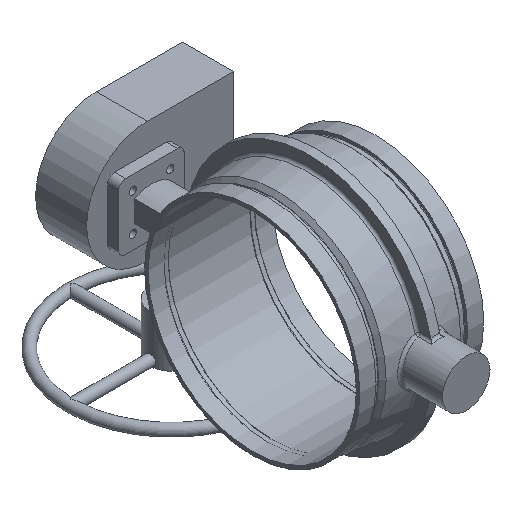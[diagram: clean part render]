
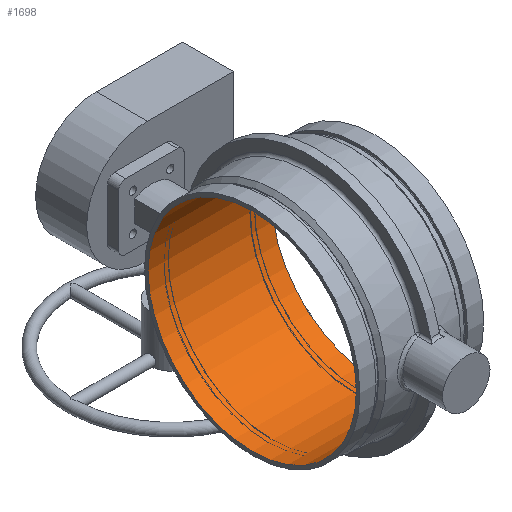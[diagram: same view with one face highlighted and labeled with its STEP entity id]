
A CAD part, isometric view. The second image highlights one B-rep face of the part: STEP entity #1698.
In plain terms, the highlighted cylindrical face has radius 245.618 mm (diameter 491.236 mm), a full revolution.
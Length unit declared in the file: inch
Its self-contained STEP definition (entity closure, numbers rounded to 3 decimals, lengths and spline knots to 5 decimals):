
#176=CIRCLE('',#1907,9.67);
#177=CIRCLE('',#1908,9.67);
#178=CIRCLE('',#1910,9.67);
#179=CIRCLE('',#1911,9.67);
#302=FACE_OUTER_BOUND('',#406,.T.);
#406=EDGE_LOOP('',(#1539,#1540,#1541,#1542,#1543,#1544));
#478=LINE('',#3834,#547);
#547=VECTOR('',#2367,9.67);
#791=VERTEX_POINT('',#3828);
#792=VERTEX_POINT('',#3829);
#793=VERTEX_POINT('',#3833);
#794=VERTEX_POINT('',#3835);
#1045=EDGE_CURVE('',#791,#792,#176,.T.);
#1046=EDGE_CURVE('',#792,#791,#177,.T.);
#1047=EDGE_CURVE('',#792,#793,#478,.T.);
#1048=EDGE_CURVE('',#794,#793,#178,.T.);
#1049=EDGE_CURVE('',#793,#794,#179,.T.);
#1539=ORIENTED_EDGE('',*,*,#1045,.T.);
#1540=ORIENTED_EDGE('',*,*,#1047,.T.);
#1541=ORIENTED_EDGE('',*,*,#1048,.F.);
#1542=ORIENTED_EDGE('',*,*,#1049,.F.);
#1543=ORIENTED_EDGE('',*,*,#1047,.F.);
#1544=ORIENTED_EDGE('',*,*,#1046,.T.);
#1607=CYLINDRICAL_SURFACE('',#1909,9.67);
#1698=ADVANCED_FACE('',(#302),#1607,.F.);
#1907=AXIS2_PLACEMENT_3D('',#3830,#2361,#2362);
#1908=AXIS2_PLACEMENT_3D('',#3831,#2363,#2364);
#1909=AXIS2_PLACEMENT_3D('',#3832,#2365,#2366);
#1910=AXIS2_PLACEMENT_3D('',#3836,#2368,#2369);
#1911=AXIS2_PLACEMENT_3D('',#3837,#2370,#2371);
#2361=DIRECTION('center_axis',(1.,0.,0.));
#2362=DIRECTION('ref_axis',(0.,1.,0.));
#2363=DIRECTION('center_axis',(1.,0.,0.));
#2364=DIRECTION('ref_axis',(0.,1.,0.));
#2365=DIRECTION('center_axis',(1.,0.,0.));
#2366=DIRECTION('ref_axis',(0.,1.,0.));
#2367=DIRECTION('',(-1.,0.,0.));
#2368=DIRECTION('center_axis',(1.,0.,0.));
#2369=DIRECTION('ref_axis',(0.,1.,0.));
#2370=DIRECTION('center_axis',(1.,0.,0.));
#2371=DIRECTION('ref_axis',(0.,1.,0.));
#3828=CARTESIAN_POINT('',(5.75,9.67,0.));
#3829=CARTESIAN_POINT('',(5.75,-9.67,0.));
#3830=CARTESIAN_POINT('Origin',(5.75,0.,0.));
#3831=CARTESIAN_POINT('Origin',(5.75,0.,0.));
#3832=CARTESIAN_POINT('Origin',(0.,0.,0.));
#3833=CARTESIAN_POINT('',(-5.75,-9.67,0.));
#3834=CARTESIAN_POINT('',(0.,-9.67,0.));
#3835=CARTESIAN_POINT('',(-5.75,9.67,0.));
#3836=CARTESIAN_POINT('Origin',(-5.75,0.,0.));
#3837=CARTESIAN_POINT('Origin',(-5.75,0.,0.));
